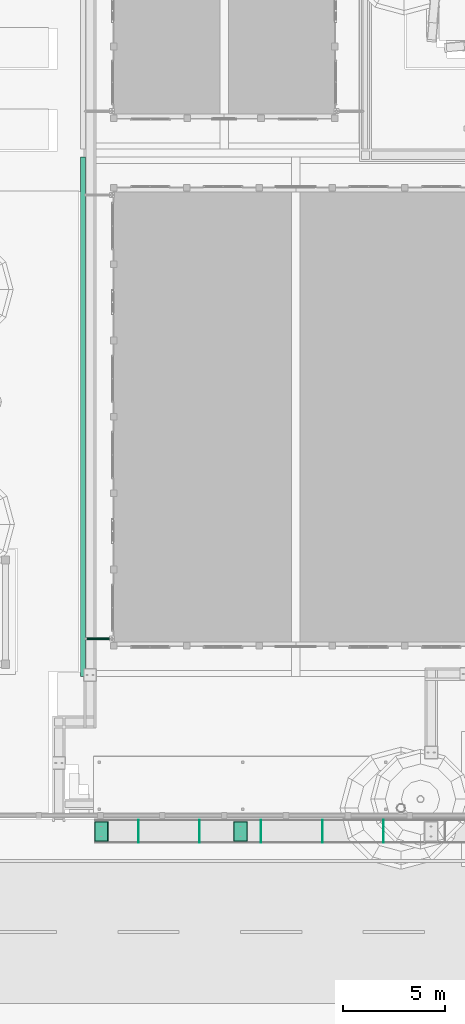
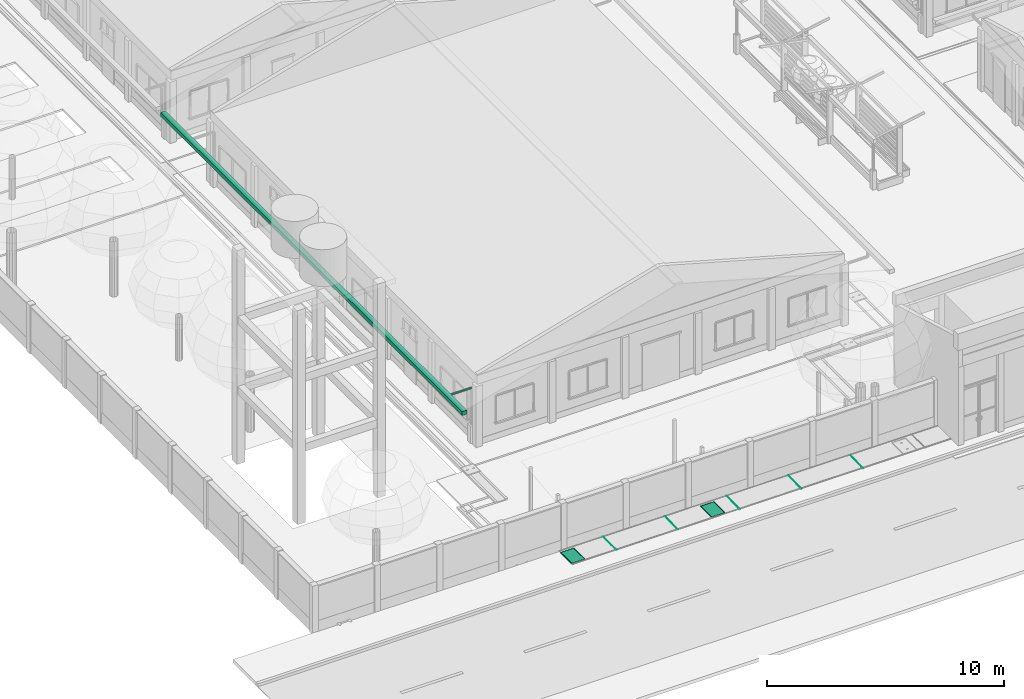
# One storey, part 94 of 177: 7 pipe segments, 4 distribution chamber elements.
"""IFC4 building model written with IfcOpenShell, lengths in metres."""

from ifc_helpers import new_model, si_unit, origin, origin_with_axes, place, context, subcontext, project, spatial, triangles, element, save


model = new_model("IFC4")

# Units and contexts
model_context = context("Model", 3, precision=1e-05, world=origin_with_axes())
body_context = subcontext(model_context, "Body", "Model", "MODEL_VIEW")
ifc_project = project(units=[si_unit("LENGTHUNIT", "METRE"), si_unit("AREAUNIT", "SQUARE_METRE"), si_unit("VOLUMEUNIT", "CUBIC_METRE"), si_unit("PLANEANGLEUNIT", "RADIAN")], contexts=[model_context])

# Site, building, storey
site_placement = place(None, origin_with_axes())
site = spatial("IfcSite", under=ifc_project, at=site_placement, Name="Predio Los Mangos - Morales, San Martín", CompositionType="ELEMENT")
building_placement = place(site_placement, origin())
building = spatial("IfcBuilding", under=site, at=building_placement, Name="Hogar de Refugio Temporal", CompositionType="ELEMENT")
storey_placement = place(building_placement, origin())
storey = spatial("IfcBuildingStorey", under=building, at=storey_placement, Name="NIVEL 1 (NPT +0.00)", CompositionType="ELEMENT", Elevation=0.0)

# Pipe segments
pipe_segment_1_placement = place(storey_placement, origin())
element("IfcPipeSegment", 1, at=pipe_segment_1_placement, inside=storey, Name="E-01_canaleta", ObjectType="Canaleta", PredefinedType="GUTTER", context=body_context, shape_type="Tessellation", body=[
    triangles([(12.18, 24.8, 3.13), (12.42, 24.8, 3.13), (12.42, 50.2, 3.13), (12.18, 50.2, 3.13), (12.18, 24.8, 3.33), (12.42, 24.8, 3.33), (12.42, 50.2, 3.33), (12.18, 50.2, 3.33)], [[1, 4, 3], [1, 3, 2], [5, 6, 7], [5, 7, 8], [1, 2, 6], [1, 6, 5], [2, 3, 7], [2, 7, 6], [3, 4, 8], [3, 8, 7], [4, 1, 5], [4, 5, 8]]),
])
pipe_segment_2_placement = place(storey_placement, origin())
element("IfcPipeSegment", 2, at=pipe_segment_2_placement, inside=storey, Name="montante_desvio", ObjectType="Montante PVC 4\"", PredefinedType="RIGIDSEGMENT", context=body_context, shape_type="Tessellation", body=[
    triangles([(12.42, 26.65, 2.965), (13.71, 26.65, 2.965), (12.42, 26.6775, 2.9576), (13.71, 26.6775, 2.9576), (12.42, 26.6976, 2.9375), (13.71, 26.6976, 2.9375), (12.42, 26.705, 2.91), (13.71, 26.705, 2.91), (12.42, 26.6976, 2.8825), (13.71, 26.6976, 2.8825), (12.42, 26.6775, 2.8624), (13.71, 26.6775, 2.8624), (12.42, 26.65, 2.855), (13.71, 26.65, 2.855), (12.42, 26.6225, 2.8624), (13.71, 26.6225, 2.8624), (12.42, 26.6024, 2.8825), (13.71, 26.6024, 2.8825), (12.42, 26.595, 2.91), (13.71, 26.595, 2.91), (12.42, 26.6024, 2.9375), (13.71, 26.6024, 2.9375), (12.42, 26.6225, 2.9576), (13.71, 26.6225, 2.9576)], [[1, 2, 4], [1, 4, 3], [3, 4, 6], [3, 6, 5], [5, 6, 8], [5, 8, 7], [7, 8, 10], [7, 10, 9], [9, 10, 12], [9, 12, 11], [11, 12, 14], [11, 14, 13], [13, 14, 16], [13, 16, 15], [15, 16, 18], [15, 18, 17], [17, 18, 20], [17, 20, 19], [19, 20, 22], [19, 22, 21], [6, 4, 2], [2, 24, 22], [22, 20, 18], [18, 16, 14], [14, 12, 10], [10, 8, 6], [6, 2, 22], [22, 18, 14], [14, 10, 6], [22, 14, 6], [21, 22, 24], [21, 24, 23], [23, 24, 2], [23, 2, 1], [23, 1, 3], [3, 5, 7], [7, 9, 11], [11, 13, 15], [15, 17, 19], [19, 21, 23], [23, 3, 7], [7, 11, 15], [15, 19, 23], [7, 15, 23]]),
])
pipe_segment_3_placement = place(storey_placement, origin())
element("IfcPipeSegment", 3, at=pipe_segment_3_placement, inside=storey, Name="junta_losa", ObjectType="Colector frontal b=0.80 (losa-vereda)", PredefinedType="CULVERT", context=body_context, shape_type="Tessellation", body=[
    triangles([(26.9873, 16.665, 0.15), (27.0127, 16.665, 0.15), (27.0127, 17.79, 0.15), (26.9873, 17.79, 0.15), (26.9873, 16.665, 0.1635), (27.0127, 16.665, 0.1635), (27.0127, 17.79, 0.1635), (26.9873, 17.79, 0.1635)], [[1, 4, 3], [1, 3, 2], [5, 6, 7], [5, 7, 8], [1, 2, 6], [1, 6, 5], [2, 3, 7], [2, 7, 6], [3, 4, 8], [3, 8, 7], [4, 1, 5], [4, 5, 8]]),
])
pipe_segment_4_placement = place(storey_placement, origin())
element("IfcPipeSegment", 4, at=pipe_segment_4_placement, inside=storey, Name="junta_losa", ObjectType="Colector frontal b=0.80 (losa-vereda)", PredefinedType="CULVERT", context=body_context, shape_type="Tessellation", body=[
    triangles([(23.9873, 16.665, 0.15), (24.0127, 16.665, 0.15), (24.0127, 17.79, 0.15), (23.9873, 17.79, 0.15), (23.9873, 16.665, 0.1635), (24.0127, 16.665, 0.1635), (24.0127, 17.79, 0.1635), (23.9873, 17.79, 0.1635)], [[1, 4, 3], [1, 3, 2], [5, 6, 7], [5, 7, 8], [1, 2, 6], [1, 6, 5], [2, 3, 7], [2, 7, 6], [3, 4, 8], [3, 8, 7], [4, 1, 5], [4, 5, 8]]),
])
pipe_segment_5_placement = place(storey_placement, origin())
element("IfcPipeSegment", 5, at=pipe_segment_5_placement, inside=storey, Name="junta_losa", ObjectType="Colector frontal b=0.80 (losa-vereda)", PredefinedType="CULVERT", context=body_context, shape_type="Tessellation", body=[
    triangles([(20.9873, 16.665, 0.15), (21.0127, 16.665, 0.15), (21.0127, 17.79, 0.15), (20.9873, 17.79, 0.15), (20.9873, 16.665, 0.1635), (21.0127, 16.665, 0.1635), (21.0127, 17.79, 0.1635), (20.9873, 17.79, 0.1635)], [[1, 4, 3], [1, 3, 2], [5, 6, 7], [5, 7, 8], [1, 2, 6], [1, 6, 5], [2, 3, 7], [2, 7, 6], [3, 4, 8], [3, 8, 7], [4, 1, 5], [4, 5, 8]]),
])
pipe_segment_6_placement = place(storey_placement, origin())
element("IfcPipeSegment", 6, at=pipe_segment_6_placement, inside=storey, Name="junta_losa", ObjectType="Colector frontal b=0.80 (losa-vereda)", PredefinedType="CULVERT", context=body_context, shape_type="Tessellation", body=[
    triangles([(17.9873, 16.665, 0.15), (18.0127, 16.665, 0.15), (18.0127, 17.79, 0.15), (17.9873, 17.79, 0.15), (17.9873, 16.665, 0.1635), (18.0127, 16.665, 0.1635), (18.0127, 17.79, 0.1635), (17.9873, 17.79, 0.1635)], [[1, 4, 3], [1, 3, 2], [5, 6, 7], [5, 7, 8], [1, 2, 6], [1, 6, 5], [2, 3, 7], [2, 7, 6], [3, 4, 8], [3, 8, 7], [4, 1, 5], [4, 5, 8]]),
])
pipe_segment_7_placement = place(storey_placement, origin())
element("IfcPipeSegment", 7, at=pipe_segment_7_placement, inside=storey, Name="junta_losa", ObjectType="Colector frontal b=0.80 (losa-vereda)", PredefinedType="CULVERT", context=body_context, shape_type="Tessellation", body=[
    triangles([(14.9873, 16.665, 0.15), (15.0127, 16.665, 0.15), (15.0127, 17.79, 0.15), (14.9873, 17.79, 0.15), (14.9873, 16.665, 0.1635), (15.0127, 16.665, 0.1635), (15.0127, 17.79, 0.1635), (14.9873, 17.79, 0.1635)], [[1, 4, 3], [1, 3, 2], [5, 6, 7], [5, 7, 8], [1, 2, 6], [1, 6, 5], [2, 3, 7], [2, 7, 6], [3, 4, 8], [3, 8, 7], [4, 1, 5], [4, 5, 8]]),
])

# Distribution chamber elements
distribution_chamber_element_1_placement = place(storey_placement, origin())
element("IfcDistributionChamberElement", 8, at=distribution_chamber_element_1_placement, inside=storey, Name="tapa_junta", ObjectType="Tapa ciega de registro del colector", PredefinedType="INSPECTIONCHAMBER", context=body_context, shape_type="Tessellation", body=[
    triangles([(19.655, 16.72, 0.161), (20.345, 16.72, 0.161), (20.345, 17.71, 0.161), (19.655, 17.71, 0.161), (19.655, 16.72, 0.164), (20.345, 16.72, 0.164), (20.345, 17.71, 0.164), (19.655, 17.71, 0.164)], [[1, 4, 3], [1, 3, 2], [5, 6, 7], [5, 7, 8], [1, 2, 6], [1, 6, 5], [2, 3, 7], [2, 7, 6], [3, 4, 8], [3, 8, 7], [4, 1, 5], [4, 5, 8]]),
])
distribution_chamber_element_2_placement = place(storey_placement, origin())
element("IfcDistributionChamberElement", 9, at=distribution_chamber_element_2_placement, inside=storey, Name="tapa_ciega", ObjectType="Tapa ciega de registro del colector", PredefinedType="INSPECTIONCHAMBER", context=body_context, shape_type="Tessellation", body=[
    triangles([(19.69, 16.755, 0.161), (20.31, 16.755, 0.161), (20.31, 17.675, 0.161), (19.69, 17.675, 0.161), (19.69, 16.755, 0.17), (20.31, 16.755, 0.17), (20.31, 17.675, 0.17), (19.69, 17.675, 0.17)], [[1, 4, 3], [1, 3, 2], [5, 6, 7], [5, 7, 8], [1, 2, 6], [1, 6, 5], [2, 3, 7], [2, 7, 6], [3, 4, 8], [3, 8, 7], [4, 1, 5], [4, 5, 8]]),
])
distribution_chamber_element_3_placement = place(storey_placement, origin())
element("IfcDistributionChamberElement", 10, at=distribution_chamber_element_3_placement, inside=storey, Name="tapa_junta", ObjectType="Tapa ciega de registro del colector", PredefinedType="INSPECTIONCHAMBER", context=body_context, shape_type="Tessellation", body=[
    triangles([(12.845, 16.72, 0.161), (13.535, 16.72, 0.161), (13.535, 17.71, 0.161), (12.845, 17.71, 0.161), (12.845, 16.72, 0.164), (13.535, 16.72, 0.164), (13.535, 17.71, 0.164), (12.845, 17.71, 0.164)], [[1, 4, 3], [1, 3, 2], [5, 6, 7], [5, 7, 8], [1, 2, 6], [1, 6, 5], [2, 3, 7], [2, 7, 6], [3, 4, 8], [3, 8, 7], [4, 1, 5], [4, 5, 8]]),
])
distribution_chamber_element_4_placement = place(storey_placement, origin())
element("IfcDistributionChamberElement", 11, at=distribution_chamber_element_4_placement, inside=storey, Name="tapa_ciega", ObjectType="Tapa ciega de registro del colector", PredefinedType="INSPECTIONCHAMBER", context=body_context, shape_type="Tessellation", body=[
    triangles([(12.88, 16.755, 0.161), (13.5, 16.755, 0.161), (13.5, 17.675, 0.161), (12.88, 17.675, 0.161), (12.88, 16.755, 0.17), (13.5, 16.755, 0.17), (13.5, 17.675, 0.17), (12.88, 17.675, 0.17)], [[1, 4, 3], [1, 3, 2], [5, 6, 7], [5, 7, 8], [1, 2, 6], [1, 6, 5], [2, 3, 7], [2, 7, 6], [3, 4, 8], [3, 8, 7], [4, 1, 5], [4, 5, 8]]),
])

save(model, "model.ifc")
